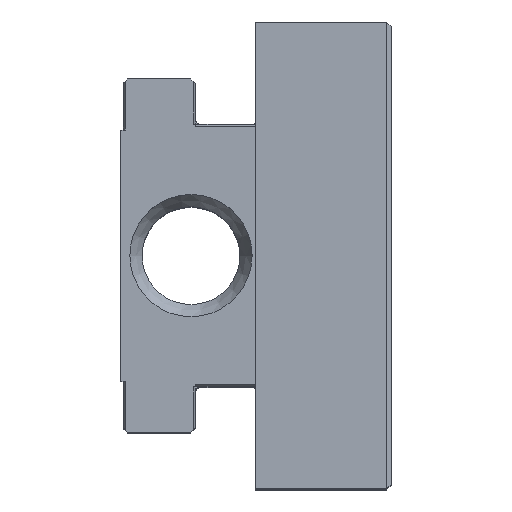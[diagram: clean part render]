
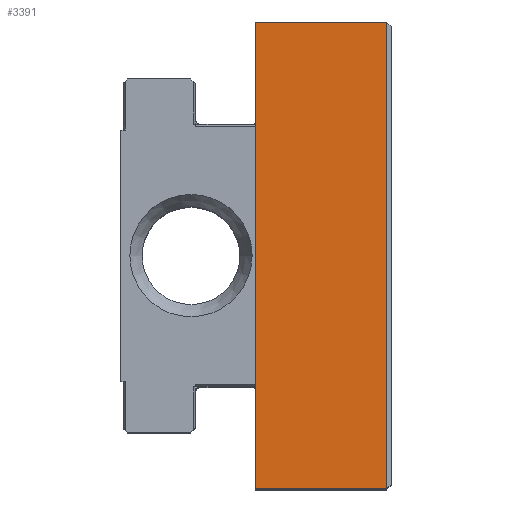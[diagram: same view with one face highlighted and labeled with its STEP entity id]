
A CAD part, top view. The second image highlights one B-rep face of the part: STEP entity #3391.
In plain terms, the highlighted planar face has unit normal (0, 0, 1) as drawn and (0, 0, -1) by its records, which use the part's own axes.
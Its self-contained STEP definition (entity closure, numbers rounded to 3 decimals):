
#5 = LINE ( 'NONE', #629, #1088 ) ;
#147 = AXIS2_PLACEMENT_3D ( 'NONE', #646, #1798, #1533 ) ;
#311 = VERTEX_POINT ( 'NONE', #1195 ) ;
#364 = EDGE_CURVE ( 'NONE', #3177, #3578, #1461, .T. ) ;
#441 = DIRECTION ( 'NONE',  ( 0., -1., 0. ) ) ;
#629 = CARTESIAN_POINT ( 'NONE',  ( 25.489, 61.99, -31.101 ) ) ;
#646 = CARTESIAN_POINT ( 'NONE',  ( 25.489, 61.99, -31.101 ) ) ;
#713 = VECTOR ( 'NONE', #1011, 1000. ) ;
#909 = CARTESIAN_POINT ( 'NONE',  ( 25.489, -27.588, -31.101 ) ) ;
#981 = EDGE_CURVE ( 'NONE', #311, #3578, #5, .T. ) ;
#1011 = DIRECTION ( 'NONE',  ( 1., 0., 0. ) ) ;
#1052 = EDGE_CURVE ( 'NONE', #3720, #3177, #3285, .T. ) ;
#1088 = VECTOR ( 'NONE', #3487, 1000. ) ;
#1156 = CARTESIAN_POINT ( 'NONE',  ( 39.989, -27.588, -31.101 ) ) ;
#1195 = CARTESIAN_POINT ( 'NONE',  ( 25.489, 23.912, -31.101 ) ) ;
#1461 = LINE ( 'NONE', #2618, #3748 ) ;
#1533 = DIRECTION ( 'NONE',  ( 1., 0., 0. ) ) ;
#1570 = FACE_OUTER_BOUND ( 'NONE', #3449, .T. ) ;
#1798 = DIRECTION ( 'NONE',  ( 0., 0., 1. ) ) ;
#1879 = LINE ( 'NONE', #3692, #713 ) ;
#1891 = EDGE_CURVE ( 'NONE', #311, #3720, #1879, .T. ) ;
#2018 = DIRECTION ( 'NONE',  ( -1., 0., 0. ) ) ;
#2593 = ORIENTED_EDGE ( 'NONE', *, *, #364, .T. ) ;
#2618 = CARTESIAN_POINT ( 'NONE',  ( 25.489, -27.588, -31.101 ) ) ;
#2684 = CARTESIAN_POINT ( 'NONE',  ( 39.989, 61.99, -31.101 ) ) ;
#3142 = ORIENTED_EDGE ( 'NONE', *, *, #1052, .T. ) ;
#3177 = VERTEX_POINT ( 'NONE', #1156 ) ;
#3205 = VECTOR ( 'NONE', #441, 1000. ) ;
#3285 = LINE ( 'NONE', #2684, #3205 ) ;
#3391 = ADVANCED_FACE ( 'NONE', ( #1570 ), #3526, .F. ) ;
#3441 = ORIENTED_EDGE ( 'NONE', *, *, #981, .F. ) ;
#3449 = EDGE_LOOP ( 'NONE', ( #3684, #3142, #2593, #3441 ) ) ;
#3487 = DIRECTION ( 'NONE',  ( 0., -1., 0. ) ) ;
#3526 = PLANE ( 'NONE',  #147 ) ;
#3568 = CARTESIAN_POINT ( 'NONE',  ( 39.989, 23.912, -31.101 ) ) ;
#3578 = VERTEX_POINT ( 'NONE', #909 ) ;
#3684 = ORIENTED_EDGE ( 'NONE', *, *, #1891, .T. ) ;
#3692 = CARTESIAN_POINT ( 'NONE',  ( 25.489, 23.912, -31.101 ) ) ;
#3720 = VERTEX_POINT ( 'NONE', #3568 ) ;
#3748 = VECTOR ( 'NONE', #2018, 1000. ) ;
